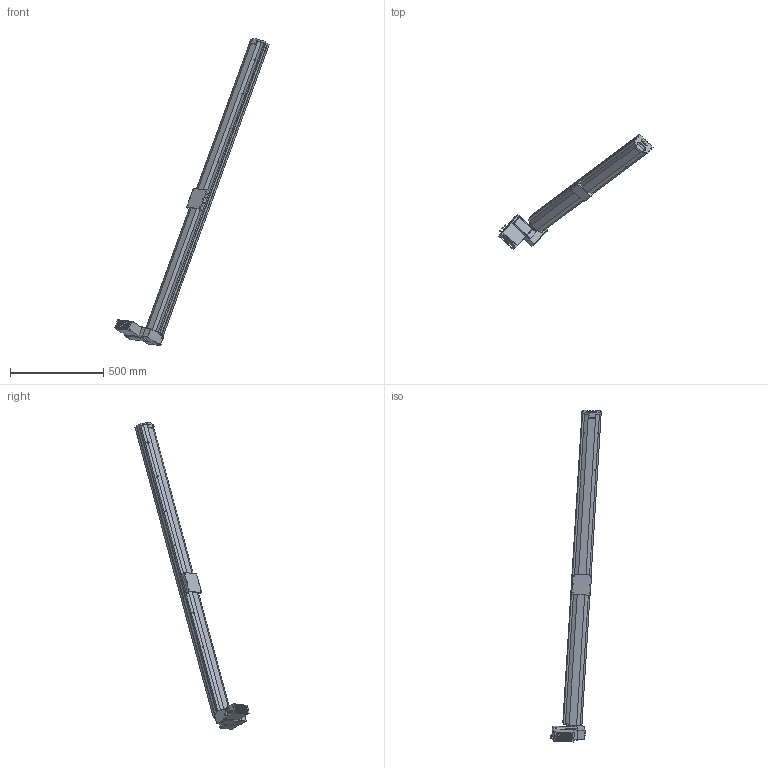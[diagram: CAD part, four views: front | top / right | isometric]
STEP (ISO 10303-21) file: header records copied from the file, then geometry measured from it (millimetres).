
FILE_DESCRIPTION (( 'STEP AP203' ), '1' );
FILE_NAME ('S10 CBH RT S1700.STEP', '2012-10-01T11:51:06', ( '' ), ( '' ), 'SwSTEP 2.0', 'SolidWorks 2010', '' );
FILE_SCHEMA (( 'CONFIG_CONTROL_DESIGN' ));
Length unit declared in the file: millimetre
Products named in the file (9): palette tbh; MOTEUR GMI 61 ; Plaque racord_; S10 CBH RT S1700; embout; moteur M3; plaque de bout; moteur M3_1; axe 1700
Assembly tree (7 placements, depth 3):
  S10 CBH RT S1700
    embout
    MOTEUR GMI 61 
    plaque de bout
      Plaque racord_
      moteur M3_1
    axe 1700
    palette tbh
  moteur M3
Bounding box: 827.29 x 613.72 x 1644.51 mm (x, y, z)
Volume: 9817848.7 mm3; surface area: 976689.4 mm2
Topology: 5 solids, 18 shells, 771 faces, 2006 edges, 1260 vertices
Faces by surface type: plane 381, cylinder 281, cone 74, torus 23, bspline 8, sphere 4
Entity records: 26721 total; most frequent: CARTESIAN_POINT 6863, DIRECTION 4017, ORIENTED_EDGE 3764, EDGE_CURVE 1932, AXIS2_PLACEMENT_3D 1386, VERTEX_POINT 1260, LINE 1245, VECTOR 1245
